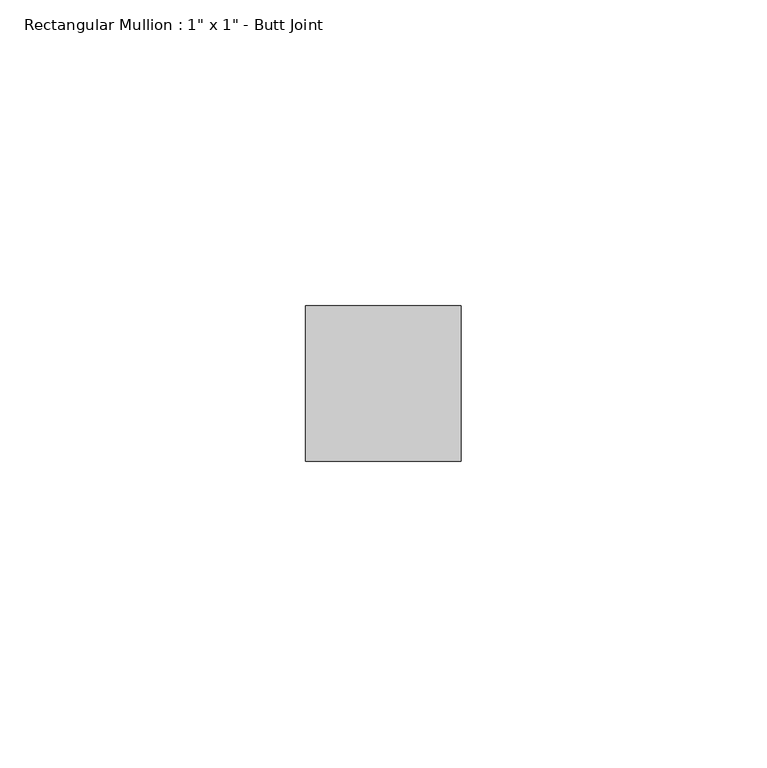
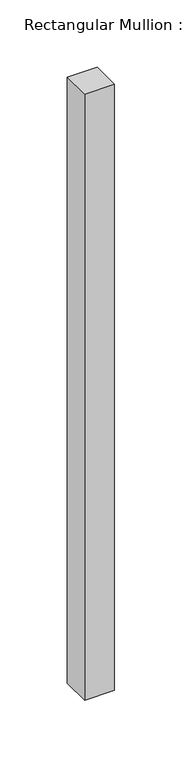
"""IFC4 building model written with IfcOpenShell, lengths in millimetres: member geometry."""

from ifc_helpers import new_model, si_unit, frame, origin, place, context, project, spatial, polyline, outline, extrude, source, transform, mapped, element, save


def member_b79563ae(model_context):
    return source(origin(), model_context, "Body", "SweptSolid", [
        extrude(outline(polyline([(12.7, 12.7), (12.7, -12.7), (-12.7, -12.7), (-12.7, 12.7), (12.7, 12.7)])), frame((0.0, 0.0, -548.8498817), z_axis=(0.0, 0.0, 1.0), x_axis=(1.0, 0.0, 0.0)), (0.0, 0.0, 1.0), 548.8498817),
    ])


if __name__ == "__main__":
    model = new_model("IFC4")
    model_context = context("Model", 3, world=origin())
    ifc_project = project(units=[si_unit("LENGTHUNIT", "METRE", prefix="MILLI")], contexts=[model_context])
    site = spatial("IfcSite", under=ifc_project)
    building = spatial("IfcBuilding", under=site)
    placement = place(None, origin())
    member_shape = member_b79563ae(model_context)
    element("IfcMember", 1, ObjectType="Rectangular Mullion : 1\" x 1\" - Butt Joint", at=placement, inside=building, context=model_context, shape_type="MappedRepresentation", body=[
        mapped(member_shape, transform((0.0, 0.0, 0.0), x_axis=(1.0, 0.0, 0.0), y_axis=(0.0, 1.0, 0.0), z_axis=(0.0, 0.0, 1.0))),
    ])
    save(model, "model.ifc")
